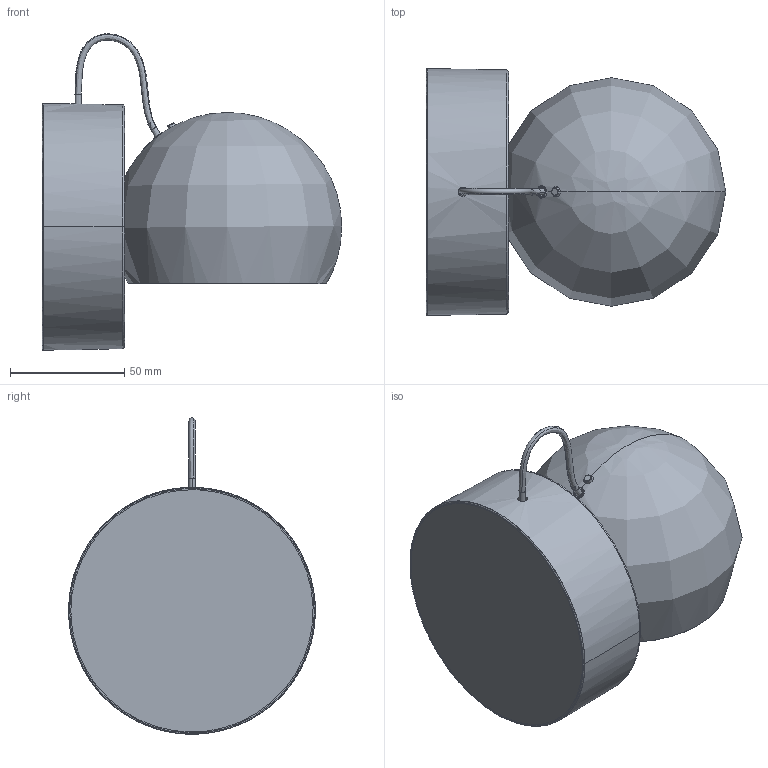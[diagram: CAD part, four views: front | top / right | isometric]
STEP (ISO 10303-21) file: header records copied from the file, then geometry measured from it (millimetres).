
FILE_DESCRIPTION(/* description */ (''),/* implementation_level */ '2;1');
FILE_NAME(/* name */ 'Ixa Spot',/* time_stamp */ '2025-02-17T16:52:46+01:00',/* author */ (''),/* organization */ (''),/* preprocessor_version */ 'ST-DEVELOPER v16.5',/* originating_system */ 'Rhino 7.38',/* authorisation */ '');
FILE_SCHEMA (('AUTOMOTIVE_DESIGN'));
Length unit declared in the file: millimetre
Products named in the file (8): Document; WAP6161_--IXA LAV. SFERA CON PERNO SALDATO_MODEL 01; Y102016299_A-SFERA METALLICA D100 01; Blocco 03 01; Y201003232_--PULSANTE 01; Blocco 01 01; Blocco 04 01; Blocco 392
Assembly tree (7 placements, depth 4):
  Document
    WAP6161_--IXA LAV. SFERA CON PERNO SALDATO_MODEL 01
      Y102016299_A-SFERA METALLICA D100 01
        Blocco 03 01
    Y201003232_--PULSANTE 01
      Blocco 01 01
    Blocco 04 01
    Blocco 392
Bounding box: 131 x 107.98 x 138.38 mm (x, y, z)
Surface area: 90100.1 mm2 (no closed solid volume)
Topology: 0 solids, 43 shells, 73 faces, 273 edges, 235 vertices
Faces by surface type: bspline 50, cylinder 12, plane 11
Entity records: 6888 total; most frequent: CARTESIAN_POINT 4422, ORIENTED_EDGE 330, EDGE_CURVE 267, VERTEX_POINT 235, COLOUR_RGB 112, FILL_AREA_STYLE_COLOUR 112, FILL_AREA_STYLE 112, SURFACE_STYLE_FILL_AREA 112
